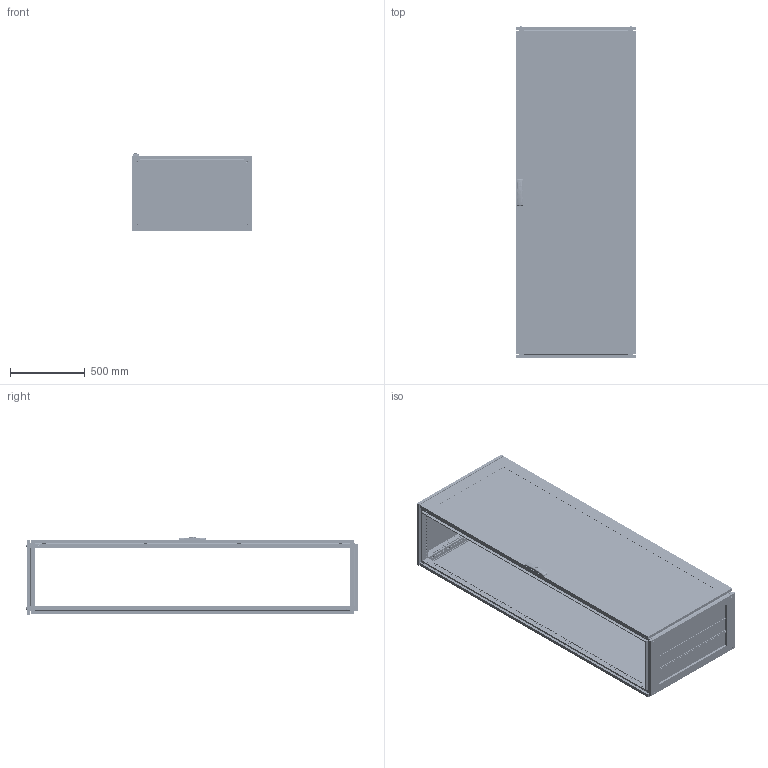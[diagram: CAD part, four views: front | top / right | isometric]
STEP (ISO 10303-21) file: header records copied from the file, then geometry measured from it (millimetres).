
FILE_DESCRIPTION (( 'STEP AP203' ), '1' );
FILE_NAME ('2285.STEP', '2025-05-13T11:02:43', ( '' ), ( '' ), 'SwSTEP 2.0', 'SolidWorks 2022', '' );
FILE_SCHEMA (( 'CONFIG_CONTROL_DESIGN' ));
Length unit declared in the file: millimetre
Products named in the file (65): RB.2680.00.02.0 simple; PF 7,5x15 CPE simple_2200x0800; RB.2686.00.00.0 simple; RB.2499.01.00.0 СБ simple_-18; R5NCPTE - Assem simple_R5NCPTE2280; M6x10 DIN 7500 E HX cl.5.8 Zinc_straight; RB.2702.00.00.0 simple; Glass CPTE_2200x0800; RB.0562.00.00.0 СБ simple_-19; RB.2455.00.00.0 simple_-03; AC00C446-R simple; RB.2357.00.00.0 simple_-05; RB.2969.00.01.0 simple; M6 MGR-MKO-0625 simple_Thread; M12x16 ISO 7380-1 HX cl.4,8 Zinc_straight; RB.1957.00.00.0 simple_-10; Glue CPTE simple_2200x0800; TPA.08.0083.00.00.0 simple; Pin 4x16 DIN 7 AISI 303 (A1) simple; RB.2680.00.00.0 СБ simple; RB.2685.00.00.0 simple_-01; RB.2052.01.00.0 СБ simple_-30; RB.1867.01.00.0 СБ simple_-57; RB.2680.00.01.0 simple; Square cap 20x20 simple; RB.1867.01.01.0 simple_-40; RB.2969.00.00.0 СБ simple; PF 7x14 CRE simple_2200x0800; R5NCRE-Assem simple_R5NCRE2280; RB.2172.00.00.1 simple; R5NKMN - Assem simple_R5NKMN22 (800х500); M8x12 AC00C476 cl.8,8 Zinc_stright; RB.0528.04.01.0 simple; RB.2499.00.00.0 СБ simple_-19; RB.2528.00.00.0 simple_-06; RB.1633.00.02.0 simple_-01; RB.0528.04.00.0 СБ simple; PF 5x10 KTB simple_800х500; M8x12 AC00C476 cl.8,8 Zinc_thread; M6x10 DIN 7500 M Torx cl.5.8 Zinc_straight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
Assembly tree (173 placements, depth 5):
  2285
    R5NCPTE - Assem simple_R5NCPTE2280
      RB.0562.00.00.0 СБ simple_-19
        RB.0562.01.00.0 СБ simple_-19
          RB.0562.01.01.0 simple_-19
          М6х12 A5100231_straight  x7
          RB.2702.00.00.0 simple  x4
          PF 7,5x15 CPE simple_2200x0800
          Glass CPTE_2200x0800
          Glue CPTE simple_2200x0800
        Square cap 20x20 simple  x2
        M6x15 Erickson cl.4,8 Zinc  x2
        RB.0528.00.01.0 simple_-06  x2
        ATOS Traction guide ILY03.35  x4
        RB.2357.00.00.0 simple_-05
        RB.2680.00.00.0 СБ simple
          TPA.08.0139.00.01.0 simple
          RB.2680.00.01.0 simple
          RB.2680.00.02.0 simple  x2
        TPA.08.0139.00.03.0  x2
        M6 DIN 985 cl.6,0 Zinc_straight  x4
        4,0x16 F Torx Zinc (ART 88200)_thread  x2
        RB.0528.04.00.0 СБ simple  x2
          RB.0528.04.01.0 simple
          Pressing stud FH-M6-12_M6x12mm
      M6x10 DIN 912 HX cl.8,8 Zinc_straight  x8
      4.8x13 DIN 7981 PH Zinc_straight
      7 DIN 6799 Zinc simple  x8
      RB.2968.00.00.0 simple  x4
      RB.2969.00.00.0 СБ simple  x4
        RB.2969.00.01.0 simple
        Pin 4x16 DIN 7 AISI 303 (A1) simple
        M6 MGR-MKO-0625 simple_Thread
      AC00C446-R simple
      RB.2696.00.00.0 simple  x4
    R5NCRE-Assem simple_R5NCRE2280
      RB.2052.00.00.0 СБ simple_-30
        RB.2052.01.00.0 СБ simple_-30
          RB.0054.01.01.0 simple_-30
          М6х12 A5100231_straight  x4
        PF 7x14 CRE simple_2200x0800
      RB.2172.00.00.1 simple  x8
      M6x10 DIN 7500 E HX cl.5.8 Zinc_straight  x8
      M6x10 DIN 7500 M Torx cl.5.8 Zinc_straight  x8
    R5NKMN - Assem simple_R5NKMN22 (800х500)
      RB.2528.00.00.0 simple_-06  x4
    R5NKTB - Assem simple_H=2200 R5NKTB85
      RB.2499.00.00.0 СБ simple_-19
        RB.2499.01.00.0 СБ simple_-18
          RB.1633.00.01.0 simple_-03  x2
          RB.1633.00.02.0 simple_-01  x2
          PF 5x10 KTB simple_800х500
        RB.2457.00.00.0 СБ simple_-19
          RB.2455.00.00.0 simple_-03  x2
          RB.2456.00.00.0 simple_-01  x2
          TPA.08.0084.00.00.0 simple  x2
          TPA.08.0083.00.00.0 simple  x2
          M8x12 AC00C476 cl.8,8 Zinc_stright  x4
        RB.1957.00.00.0 simple_-10  x3
        RB.2685.00.00.0 simple_-01  x2
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Bounding box: 800 x 2213.3 x 514.79 mm (x, y, z)
Volume: 19043260.6 mm3; surface area: 16153275.4 mm2
Topology: 176 solids, 192 shells, 24002 faces, 68085 edges, 44852 vertices
Faces by surface type: plane 13114, cylinder 8973, cone 1088, bspline 435, torus 358, sphere 34
Entity records: 236323 total; most frequent: CARTESIAN_POINT 57384, ORIENTED_EDGE 35570, DIRECTION 34066, EDGE_CURVE 17811, VERTEX_POINT 11798, AXIS2_PLACEMENT_3D 11446, LINE 11174, VECTOR 11174
